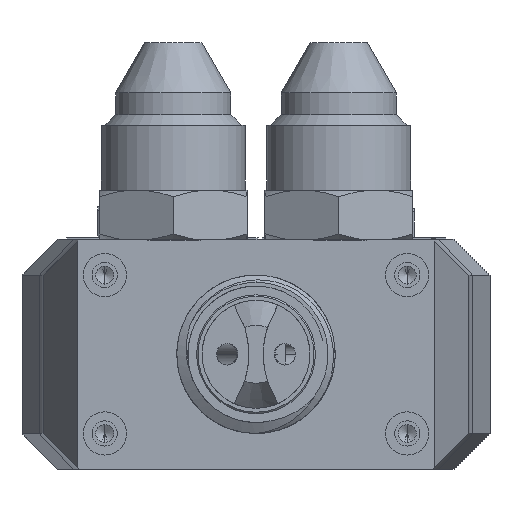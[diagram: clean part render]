
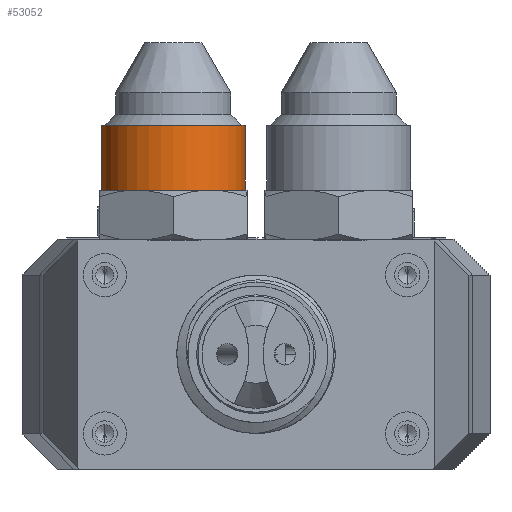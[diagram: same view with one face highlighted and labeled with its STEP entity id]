
A CAD part, front view. The second image highlights one B-rep face of the part: STEP entity #53052.
In plain terms, the highlighted cylindrical face has radius 10 mm (diameter 20 mm), a partial arc.
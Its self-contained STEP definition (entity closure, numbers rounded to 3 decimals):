
#145 = AXIS2_PLACEMENT_3D ( 'NONE', #8109, #59124, #29647 ) ;
#988 = CARTESIAN_POINT ( 'NONE',  ( -68.998, -154.021, 1052.575 ) ) ;
#1040 = CARTESIAN_POINT ( 'NONE',  ( -48.998, -154.021, 1021.303 ) ) ;
#1731 = FACE_OUTER_BOUND ( 'NONE', #14163, .T. ) ;
#3927 = CARTESIAN_POINT ( 'NONE',  ( -48.998, -154.021, 1052.575 ) ) ;
#5341 = VERTEX_POINT ( 'NONE', #44828 ) ;
#8109 = CARTESIAN_POINT ( 'NONE',  ( -58.998, -154.021, 1030.303 ) ) ;
#8478 = VECTOR ( 'NONE', #34397, 1000. ) ;
#12306 = ORIENTED_EDGE ( 'NONE', *, *, #59642, .T. ) ;
#12328 = CARTESIAN_POINT ( 'NONE',  ( -58.998, -154.021, 1052.575 ) ) ;
#14163 = EDGE_LOOP ( 'NONE', ( #36585, #12306, #20292, #18907 ) ) ;
#18907 = ORIENTED_EDGE ( 'NONE', *, *, #32278, .T. ) ;
#20292 = ORIENTED_EDGE ( 'NONE', *, *, #63814, .T. ) ;
#29167 = VERTEX_POINT ( 'NONE', #1040 ) ;
#29647 = DIRECTION ( 'NONE',  ( 1., 0., 0. ) ) ;
#30161 = LINE ( 'NONE', #988, #44917 ) ;
#32278 = EDGE_CURVE ( 'NONE', #5341, #45032, #49836, .T. ) ;
#32926 = DIRECTION ( 'NONE',  ( 1., 0., 0. ) ) ;
#34397 = DIRECTION ( 'NONE',  ( 0., 0., 1. ) ) ;
#35148 = CARTESIAN_POINT ( 'NONE',  ( -68.998, -154.021, 1030.303 ) ) ;
#36585 = ORIENTED_EDGE ( 'NONE', *, *, #42514, .F. ) ;
#36744 = VERTEX_POINT ( 'NONE', #40947 ) ;
#37166 = DIRECTION ( 'NONE',  ( 0., 0., 1. ) ) ;
#37170 = AXIS2_PLACEMENT_3D ( 'NONE', #12328, #37166, #47438 ) ;
#40205 = AXIS2_PLACEMENT_3D ( 'NONE', #47848, #63080, #32926 ) ;
#40947 = CARTESIAN_POINT ( 'NONE',  ( -68.998, -154.021, 1021.303 ) ) ;
#42514 = EDGE_CURVE ( 'NONE', #36744, #45032, #30161, .T. ) ;
#44828 = CARTESIAN_POINT ( 'NONE',  ( -48.998, -154.021, 1030.303 ) ) ;
#44917 = VECTOR ( 'NONE', #61593, 1000. ) ;
#45032 = VERTEX_POINT ( 'NONE', #35148 ) ;
#47438 = DIRECTION ( 'NONE',  ( 1., 0., 0. ) ) ;
#47848 = CARTESIAN_POINT ( 'NONE',  ( -58.998, -154.021, 1021.303 ) ) ;
#49836 = CIRCLE ( 'NONE', #145, 10. ) ;
#53052 = ADVANCED_FACE ( 'NONE', ( #1731 ), #62328, .T. ) ;
#53936 = LINE ( 'NONE', #3927, #8478 ) ;
#59124 = DIRECTION ( 'NONE',  ( 0., 0., -1. ) ) ;
#59642 = EDGE_CURVE ( 'NONE', #36744, #29167, #63446, .T. ) ;
#61593 = DIRECTION ( 'NONE',  ( 0., 0., 1. ) ) ;
#62328 = CYLINDRICAL_SURFACE ( 'NONE', #37170, 10. ) ;
#63080 = DIRECTION ( 'NONE',  ( 0., 0., 1. ) ) ;
#63446 = CIRCLE ( 'NONE', #40205, 10. ) ;
#63814 = EDGE_CURVE ( 'NONE', #29167, #5341, #53936, .T. ) ;
